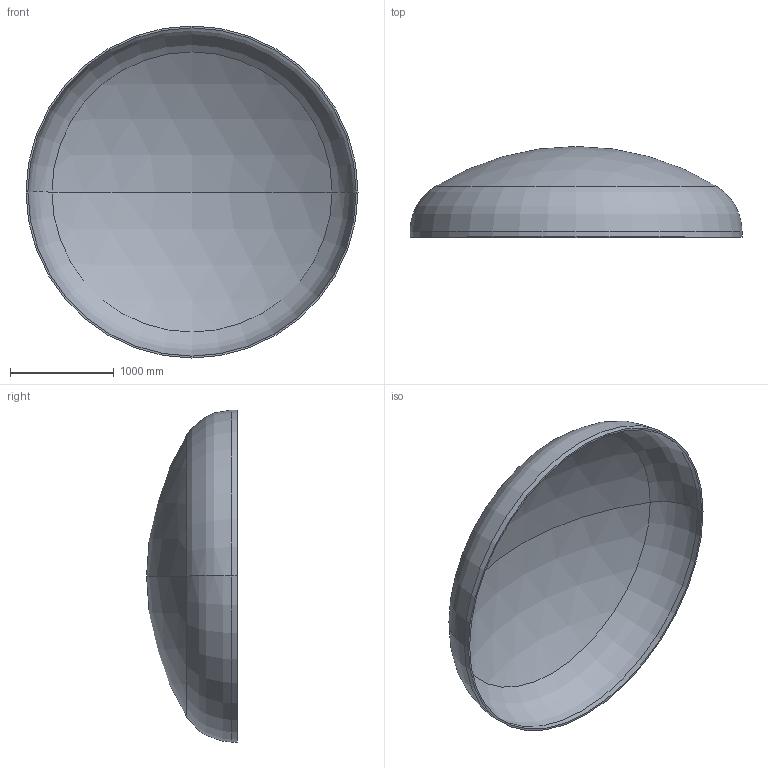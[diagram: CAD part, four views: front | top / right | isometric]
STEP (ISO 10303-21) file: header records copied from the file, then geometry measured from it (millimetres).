
FILE_DESCRIPTION (( 'STEP AP203' ), '1' );
FILE_NAME ('DIN 28013 Korbbogenform_-_Boden DIN 28013 - 3200 x 55 - I - s=18.step', '2016-07-01T18:22:49', ( '' ), ( '' ), 'SwSTEP 2.0', 'SolidWorks 2013', '' );
FILE_SCHEMA (( 'CONFIG_CONTROL_DESIGN' ));
Length unit declared in the file: millimetre
Products named in the file (1): DIN 28013 Korbbogenform_-_Boden DIN 28013 - 3200 x 55 - I - s=18
Bounding box: 3200 x 874.47 x 3200 mm (x, y, z)
Volume: 208692872.4 mm3; surface area: 23368704.2 mm2
Topology: 1 solids, 1 shells, 13 faces, 24 edges, 14 vertices
Faces by surface type: torus 4, cylinder 4, sphere 4, plane 1
Entity records: 407 total; most frequent: DIRECTION 72, CARTESIAN_POINT 52, ORIENTED_EDGE 48, AXIS2_PLACEMENT_3D 34, EDGE_CURVE 24, CIRCLE 20, EDGE_LOOP 14, VERTEX_POINT 14
